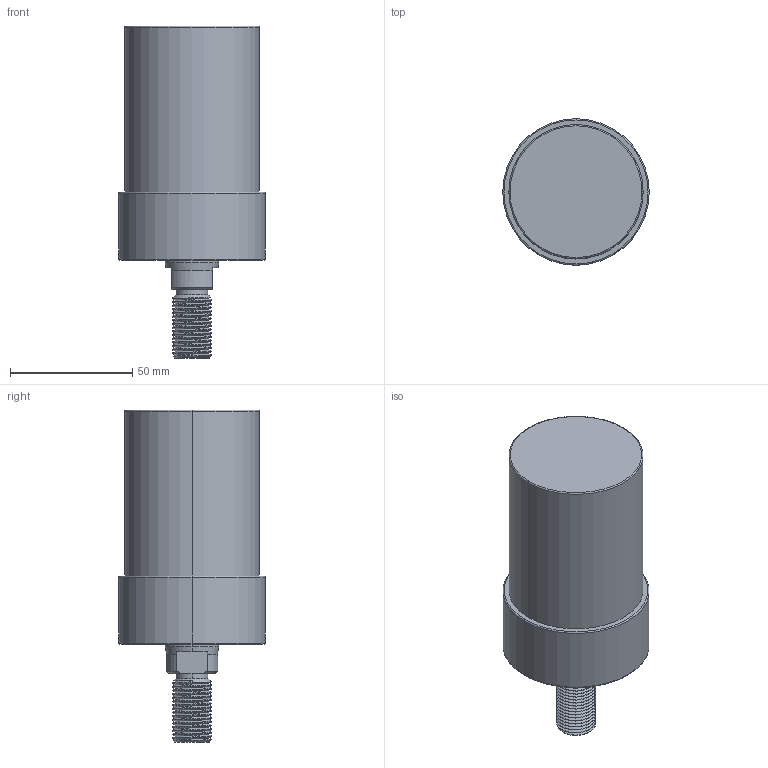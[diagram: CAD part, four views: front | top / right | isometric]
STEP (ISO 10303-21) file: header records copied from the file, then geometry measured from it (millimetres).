
FILE_DESCRIPTION (( 'STEP AP203' ), '1' );
FILE_NAME ('CLLU-055GT-055.STEP', '2020-01-16T00:49:32', ( '' ), ( '' ), 'SwSTEP 2.0', 'SolidWorks 2015', '' );
FILE_SCHEMA (( 'CONFIG_CONTROL_DESIGN' ));
Length unit declared in the file: millimetre
Products named in the file (1): CLLU-055GT-055
Bounding box: 60 x 60 x 136 mm (x, y, z)
Volume: 247978.5 mm3; surface area: 26748.1 mm2
Topology: 1 solids, 1 shells, 101 faces, 253 edges, 155 vertices
Faces by surface type: cylinder 55, cone 26, plane 12, torus 6, bspline 2
Entity records: 4859 total; most frequent: CARTESIAN_POINT 2589, ORIENTED_EDGE 490, DIRECTION 438, EDGE_CURVE 245, AXIS2_PLACEMENT_3D 176, VERTEX_POINT 155, EDGE_LOOP 110, FACE_OUTER_BOUND 101
